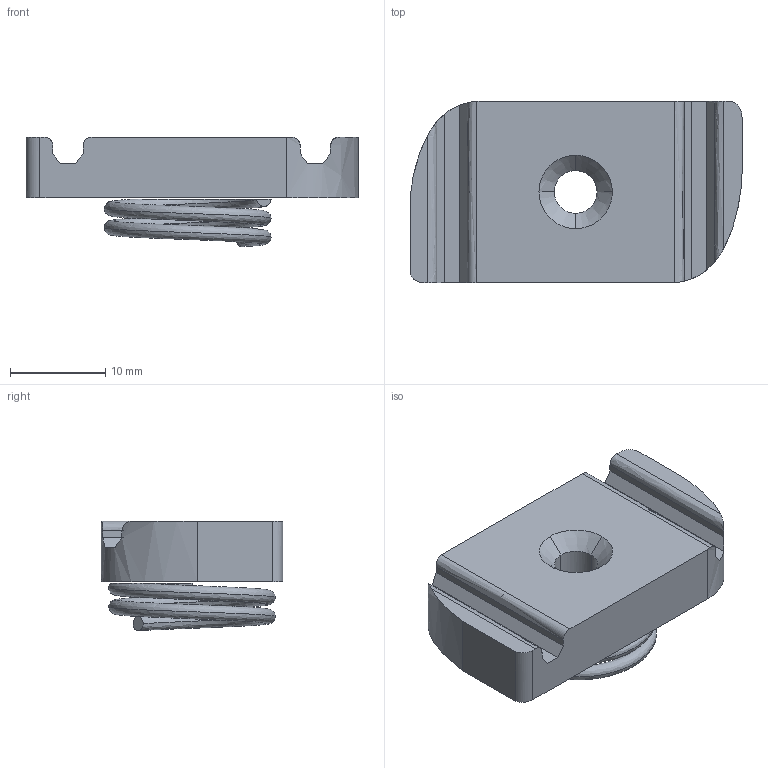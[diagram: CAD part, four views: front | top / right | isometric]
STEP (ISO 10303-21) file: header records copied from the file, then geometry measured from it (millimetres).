
FILE_DESCRIPTION(('TurboCAD Mac Pro'),'Build 980');
FILE_NAME('P4006-0832.stp',' ',(''),(''),'ACIS Interop','IMSI','TurboCAD Mac Pro BY IMSI, INCORPORATED');
FILE_SCHEMA(('automotive_design'));
Length unit declared in the file: inch
Products named in the file (2): 1; 2
Bounding box: 34.84 x 19.05 x 11.5 mm (x, y, z)
Volume: 3746.9 mm3; surface area: 2530.8 mm2
Topology: 2 solids, 2 shells, 39 faces, 99 edges, 64 vertices
Faces by surface type: plane 21, bspline 18
Entity records: 3308 total; most frequent: CARTESIAN_POINT 2149, ORIENTED_EDGE 198, DIRECTION 101, EDGE_CURVE 99, VERTEX_POINT 64, LINE 49, VECTOR 49, B_SPLINE_CURVE_WITH_KNOTS 47
